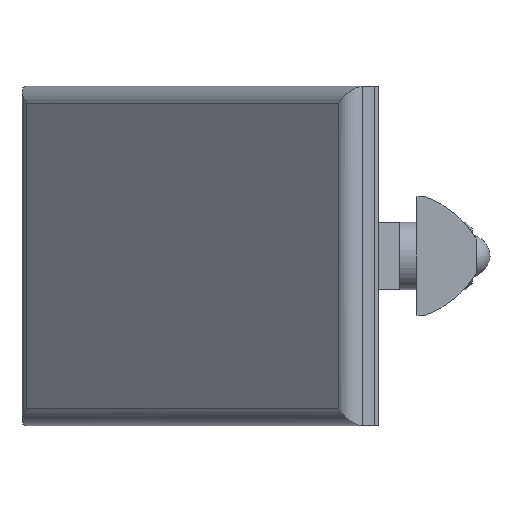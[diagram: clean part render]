
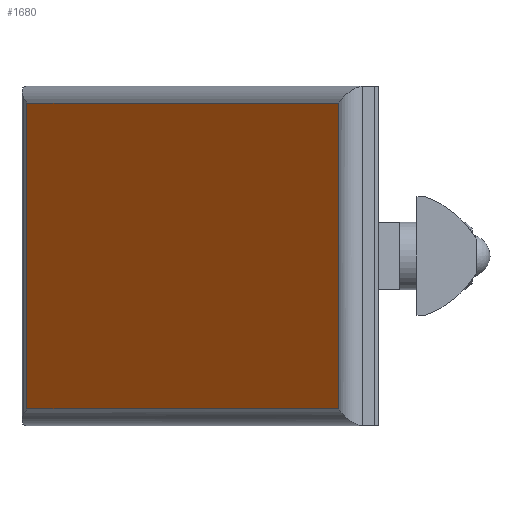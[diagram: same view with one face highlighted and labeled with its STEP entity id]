
A CAD part, left-side view. The second image highlights one B-rep face of the part: STEP entity #1680.
In plain terms, the highlighted planar face has unit normal (-0.707, 0.707, 0).
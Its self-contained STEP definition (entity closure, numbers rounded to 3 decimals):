
#295=ORIENTED_EDGE('',*,*,#547,.T.);
#296=ORIENTED_EDGE('',*,*,#548,.T.);
#297=ORIENTED_EDGE('',*,*,#549,.T.);
#298=ORIENTED_EDGE('',*,*,#550,.T.);
#547=EDGE_CURVE('',#688,#689,#831,.F.);
#548=EDGE_CURVE('',#689,#690,#832,.T.);
#549=EDGE_CURVE('',#690,#691,#833,.T.);
#550=EDGE_CURVE('',#691,#688,#834,.F.);
#688=VERTEX_POINT('',#2426);
#689=VERTEX_POINT('',#2427);
#690=VERTEX_POINT('',#2429);
#691=VERTEX_POINT('',#2431);
#831=LINE('',#2425,#973);
#832=LINE('',#2428,#974);
#833=LINE('',#2430,#975);
#834=LINE('',#2432,#976);
#973=VECTOR('',#2040,1000.);
#974=VECTOR('',#2041,1000.);
#975=VECTOR('',#2042,1000.);
#976=VECTOR('',#2043,1000.);
#1070=EDGE_LOOP('',(#295,#296,#297,#298));
#1166=FACE_BOUND('',#1070,.T.);
#1250=PLANE('',#1781);
#1680=ADVANCED_FACE('',(#1166),#1250,.F.);
#1781=AXIS2_PLACEMENT_3D('',#2424,#2038,#2039);
#2038=DIRECTION('',(0.707,-0.707,0.));
#2039=DIRECTION('',(0.707,0.707,0.));
#2040=DIRECTION('',(-0.707,-0.707,0.));
#2041=DIRECTION('',(0.,0.,-1.));
#2042=DIRECTION('',(-0.707,-0.707,0.));
#2043=DIRECTION('',(0.,0.,-1.));
#2424=CARTESIAN_POINT('',(36.672,42.828,19.99));
#2425=CARTESIAN_POINT('',(36.672,42.828,17.99));
#2426=CARTESIAN_POINT('',(-1.414,4.743,17.99));
#2427=CARTESIAN_POINT('',(35.257,41.414,17.99));
#2428=CARTESIAN_POINT('',(35.257,41.414,19.99));
#2429=CARTESIAN_POINT('',(35.257,41.414,-17.99));
#2430=CARTESIAN_POINT('',(36.672,42.828,-17.99));
#2431=CARTESIAN_POINT('',(-1.414,4.743,-17.99));
#2432=CARTESIAN_POINT('',(-1.414,4.743,19.99));
